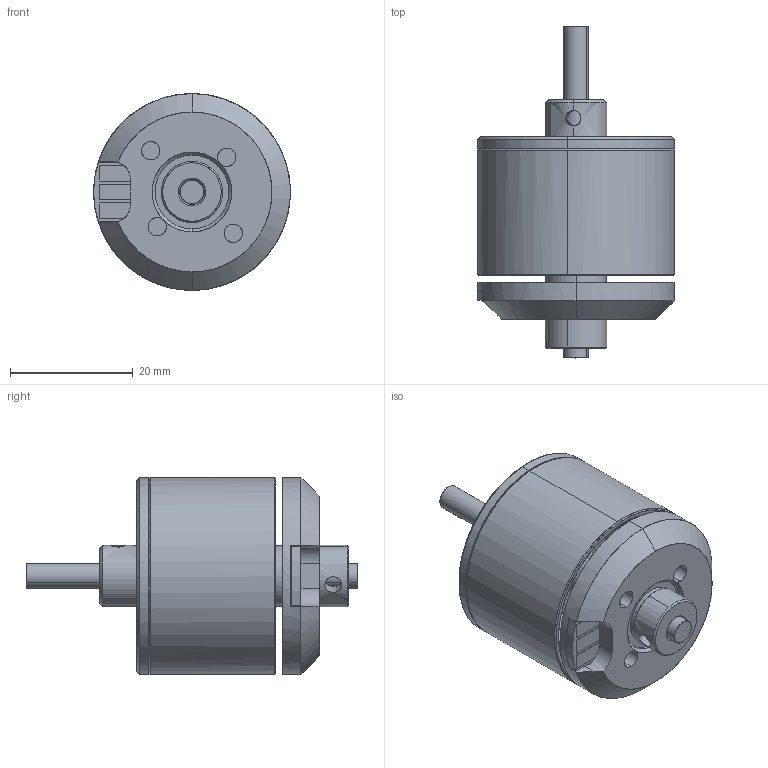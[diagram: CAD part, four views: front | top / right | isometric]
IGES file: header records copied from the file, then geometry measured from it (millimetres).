
Start section: SolidWorks IGES file using NURBS representation for surfaces
Global section: file name: C:\Users\rjehangir\Dropbox\The-J-&-R-Project\Models\Thruster-Draft-05d\M100-MOTOR-XA\PUBLIC\M100-MOTOR-XA.IGS; native system: SolidWorks 2012; preprocessor: SolidWorks 2012; author: rjehangir; date: 141107.103454; units: inch
Bounding box: 32 x 54 x 32 mm (x, y, z)
Surface area: 11258.8 mm2 (no closed solid volume)
Topology: 0 solids, 0 shells, 151 faces, 2918 edges, 2916 vertices
Faces by surface type: bspline 151
